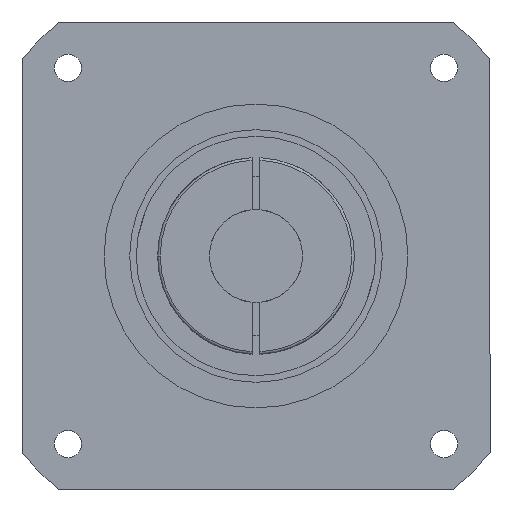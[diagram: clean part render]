
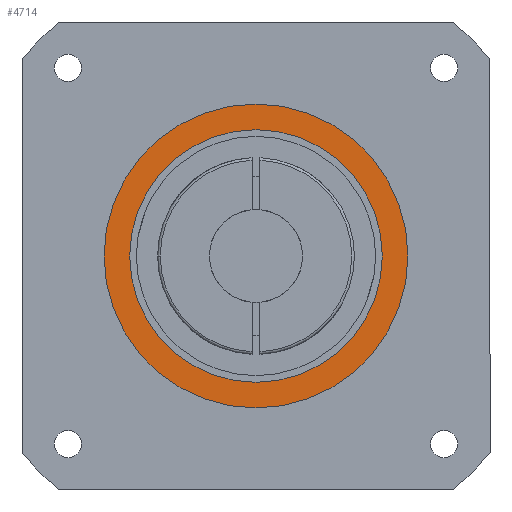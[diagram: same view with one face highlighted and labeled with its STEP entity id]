
A CAD part, front view. The second image highlights one B-rep face of the part: STEP entity #4714.
In plain terms, the highlighted planar face has unit normal (0, -1, 0).
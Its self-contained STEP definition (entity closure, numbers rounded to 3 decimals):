
#150 = VERTEX_POINT ( 'NONE', #2994 ) ;
#177 = VERTEX_POINT ( 'NONE', #3002 ) ;
#261 = VERTEX_POINT ( 'NONE', #3051 ) ;
#424 = VERTEX_POINT ( 'NONE', #3125 ) ;
#468 = FACE_BOUND ( 'NONE', #8375, .T. ) ;
#875 = CIRCLE ( 'NONE', #1560, 47.5 ) ;
#906 = CIRCLE ( 'NONE', #1564, 57.15 ) ;
#975 = CIRCLE ( 'NONE', #1572, 47.5 ) ;
#1206 = PLANE ( 'NONE',  #1948 ) ;
#1210 = CARTESIAN_POINT ( 'NONE',  ( 0., -138., 0. ) ) ;
#1220 = DIRECTION ( 'NONE',  ( 0., -1., 0. ) ) ;
#1222 = DIRECTION ( 'NONE',  ( 0., 0., -1. ) ) ;
#1560 = AXIS2_PLACEMENT_3D ( 'NONE', #5729, #5730, #5731 ) ;
#1564 = AXIS2_PLACEMENT_3D ( 'NONE', #5816, #5817, #5818 ) ;
#1572 = AXIS2_PLACEMENT_3D ( 'NONE', #5904, #5905, #5906 ) ;
#1835 = AXIS2_PLACEMENT_3D ( 'NONE', #8328, #8337, #8329 ) ;
#1948 = AXIS2_PLACEMENT_3D ( 'NONE', #1210, #1220, #1222 ) ;
#2994 = CARTESIAN_POINT ( 'NONE',  ( 0., -138., 47.5 ) ) ;
#3002 = CARTESIAN_POINT ( 'NONE',  ( 0., -138., -57.15 ) ) ;
#3051 = CARTESIAN_POINT ( 'NONE',  ( 0., -138., -47.5 ) ) ;
#3125 = CARTESIAN_POINT ( 'NONE',  ( 0., -138., 57.15 ) ) ;
#3498 = CIRCLE ( 'NONE', #1835, 57.15 ) ;
#3714 = FACE_OUTER_BOUND ( 'NONE', #8383, .T. ) ;
#3857 = ORIENTED_EDGE ( 'NONE', *, *, #7768, .T. ) ;
#3947 = ORIENTED_EDGE ( 'NONE', *, *, #4578, .T. ) ;
#3970 = ORIENTED_EDGE ( 'NONE', *, *, #7810, .T. ) ;
#3972 = ORIENTED_EDGE ( 'NONE', *, *, #7779, .T. ) ;
#4578 = EDGE_CURVE ( 'NONE', #177, #424, #3498, .T. ) ;
#4714 = ADVANCED_FACE ( 'NONE', ( #3714, #468 ), #1206, .T. ) ;
#5729 = CARTESIAN_POINT ( 'NONE',  ( 0., -138., 0. ) ) ;
#5730 = DIRECTION ( 'NONE',  ( 0., 1., 0. ) ) ;
#5731 = DIRECTION ( 'NONE',  ( 0., 0., -1. ) ) ;
#5816 = CARTESIAN_POINT ( 'NONE',  ( 0., -138., 0. ) ) ;
#5817 = DIRECTION ( 'NONE',  ( 0., -1., 0. ) ) ;
#5818 = DIRECTION ( 'NONE',  ( 0., 0., -1. ) ) ;
#5904 = CARTESIAN_POINT ( 'NONE',  ( 0., -138., 0. ) ) ;
#5905 = DIRECTION ( 'NONE',  ( 0., 1., 0. ) ) ;
#5906 = DIRECTION ( 'NONE',  ( 0., 0., -1. ) ) ;
#7768 = EDGE_CURVE ( 'NONE', #150, #261, #875, .T. ) ;
#7779 = EDGE_CURVE ( 'NONE', #424, #177, #906, .T. ) ;
#7810 = EDGE_CURVE ( 'NONE', #261, #150, #975, .T. ) ;
#8328 = CARTESIAN_POINT ( 'NONE',  ( 0., -138., 0. ) ) ;
#8329 = DIRECTION ( 'NONE',  ( 0., 0., -1. ) ) ;
#8337 = DIRECTION ( 'NONE',  ( 0., -1., 0. ) ) ;
#8375 = EDGE_LOOP ( 'NONE', ( #3970, #3857 ) ) ;
#8383 = EDGE_LOOP ( 'NONE', ( #3947, #3972 ) ) ;
